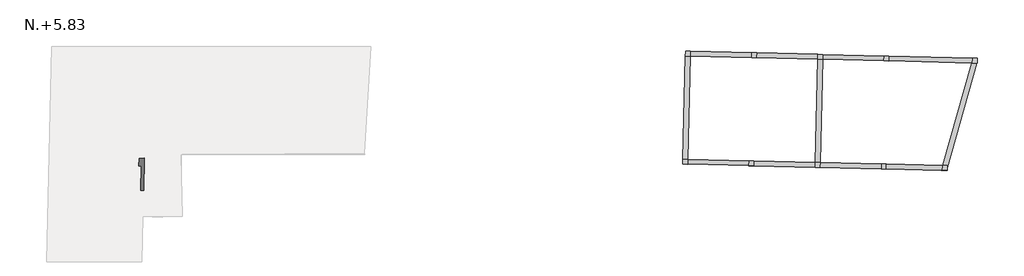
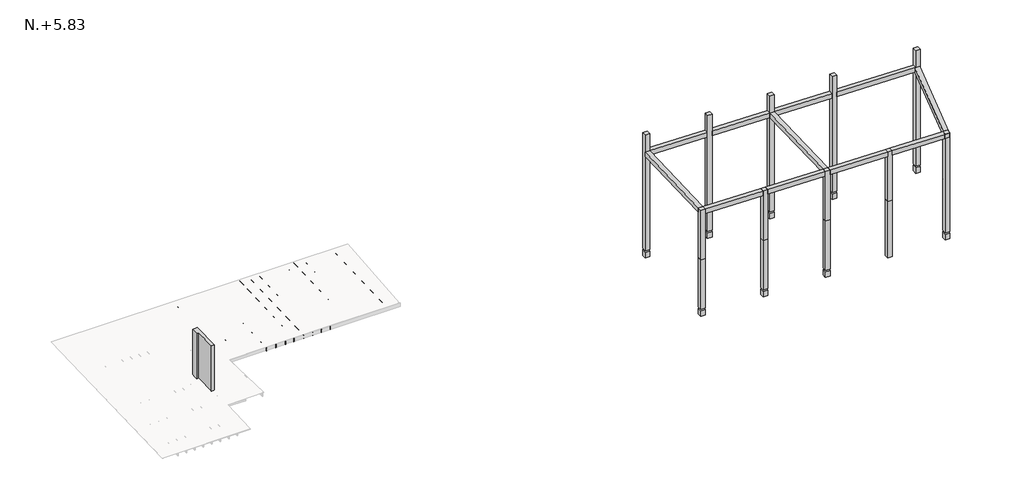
# One storey, part 2 of 2: 25 beams, 10 columns, 1 proxy.
"""IFC4 building model written with IfcOpenShell, lengths in millimetres."""

from ifc_helpers import new_model, si_unit, frame, origin, place, context, project, spatial, polyline, outline, extrude, faceted_brep, element, save

model = new_model("IFC4")

# Units and contexts
model_context = context("Model", 3, world=origin())
ifc_project = project(units=[si_unit("LENGTHUNIT", "METRE", prefix="MILLI")], contexts=[model_context])

# Site, building, storey
site = spatial("IfcSite", under=ifc_project)
building = spatial("IfcBuilding", under=site)
storey = spatial("IfcBuildingStorey", under=building, Name="N.+5.83", Elevation=2820.0)

# Beams
placement = place(None, origin())
element("IfcBeam", 1, ObjectType="Concrete-Rectangular Beam : VGT-202(18X03)(EN MADERA)", at=placement, inside=storey, context=model_context, shape_type="SweptSolid", body=[
    extrude(outline(polyline([(6056.7363488, 11060.2525025), (6086.7189813, 11061.2731633), (6227.297158, 6931.6900432), (6197.3145255, 6930.6693824), (6056.7363488, 11060.2525025)])), frame((0.0, 0.0, 2620.0), z_axis=(0.0, 0.0, 1.0), x_axis=(1.0, 0.0, 0.0)), (0.0, 0.0, 1.0), 180.0),
])
element("IfcBeam", 2, ObjectType="Concrete-Rectangular Beam : VGT-202(18X03)(EN MADERA)", at=placement, inside=storey, context=model_context, shape_type="SweptSolid", body=[
    extrude(outline(polyline([(6516.7272336, 11060.235688), (6546.7099974, 11061.2524858), (6687.3015143, 6915.5686877), (6657.3187506, 6914.5518899), (6516.7272336, 11060.235688)])), frame((0.0, 0.0, 2620.0), z_axis=(0.0, 0.0, 1.0), x_axis=(1.0, 0.0, 0.0)), (0.0, 0.0, 1.0), 180.0),
])
element("IfcBeam", 3, ObjectType="Concrete-Rectangular Beam : VGT-202(18X03)(EN MADERA)", at=placement, inside=storey, context=model_context, shape_type="SweptSolid", body=[
    extrude(outline(polyline([(6986.7272336, 11060.235688), (7016.7099974, 11061.2524858), (7157.8587761, 6899.136466), (7127.8760123, 6898.1196682), (6986.7272336, 11060.235688)])), frame((0.0, 0.0, 2620.0), z_axis=(0.0, 0.0, 1.0), x_axis=(1.0, 0.0, 0.0)), (0.0, 0.0, 1.0), 180.0),
])
element("IfcBeam", 4, ObjectType="Concrete-Rectangular Beam : VGT-202(18X03)(EN MADERA)", at=placement, inside=storey, context=model_context, shape_type="SweptSolid", body=[
    extrude(outline(polyline([(7466.6702631, 11060.1308501), (7496.6538344, 11061.1235494), (7635.012967, 6882.1131326), (7605.0293957, 6881.1204333), (7466.6702631, 11060.1308501)])), frame((0.0, 0.0, 2620.0), z_axis=(0.0, 0.0, 1.0), x_axis=(1.0, 0.0, 0.0)), (0.0, 0.0, 1.0), 180.0),
])
element("IfcBeam", 5, ObjectType="Concrete-Rectangular Beam : VGT-202(18X03)(EN MADERA)", at=placement, inside=storey, context=model_context, shape_type="SweptSolid", body=[
    extrude(outline(polyline([(7966.7272336, 11060.235688), (7996.7099974, 11061.2524858), (8139.020726, 6864.8735358), (8109.0379623, 6863.8567379), (7966.7272336, 11060.235688)])), frame((0.0, 0.0, 2620.0), z_axis=(0.0, 0.0, 1.0), x_axis=(1.0, 0.0, 0.0)), (0.0, 0.0, 1.0), 180.0),
])
element("IfcBeam", 6, ObjectType="Concrete-Rectangular Beam : VGT-203(18X03)(EN MADERA)", at=placement, inside=storey, context=model_context, shape_type="Brep", body=[
    faceted_brep([(9010.5116266, 5558.9011747, 2800.0), (8980.5225158, 5559.7094023, 2800.0), (8980.5225158, 5559.7094023, 2620.0), (9010.5116266, 5558.9011747, 2620.0), (9158.8658295, 11063.5517564, 2800.0), (9158.8658295, 11063.5517564, 2620.0), (9128.8767187, 11064.359984, 2620.0), (9128.8767187, 11064.359984, 2800.0), (9010.7816883, 5568.9217573, 2800.0), (9011.1031287, 5580.8487308, 2800.0), (9011.5902094, 5598.9217573, 2800.0), (8981.5793163, 5598.9217573, 2800.0), (8981.0877496, 5580.6822805, 2800.0), (8980.7707952, 5568.9217573, 2800.0)], [[[0, 1, 2, 3]], [[4, 5, 6, 7]], [[1, 0, 8, 9, 10, 4, 7, 11, 12, 13]], [[2, 1, 13, 12, 11, 7, 6]], [[3, 2, 6, 5]], [[0, 3, 5, 4, 10, 9, 8]]]),
])
element("IfcBeam", 7, ObjectType="Concrete-Rectangular Beam : VGT-203(18X03)(EN MADERA)", at=placement, inside=storey, context=model_context, shape_type="Brep", body=[
    faceted_brep([(9550.5917265, 5561.8912166, 2800.0), (9520.6026158, 5562.6994468, 2800.0), (9520.6026158, 5562.6994468, 2620.0), (9550.5917265, 5561.8912166, 2620.0), (9698.8656888, 11063.5467822, 2800.0), (9698.8656888, 11063.5467822, 2620.0), (9668.8765781, 11064.3550124, 2620.0), (9668.8765781, 11064.3550124, 2800.0), (9550.7812051, 5568.9217573, 2800.0), (9551.1833646, 5583.8437472, 2800.0), (9551.5897288, 5598.9217573, 2800.0), (9521.5788356, 5598.9217573, 2800.0), (9521.1679854, 5583.6772968, 2800.0), (9520.7703119, 5568.9217573, 2800.0)], [[[0, 1, 2, 3]], [[4, 5, 6, 7]], [[1, 0, 8, 9, 10, 4, 7, 11, 12, 13]], [[2, 1, 13, 12, 11, 7, 6]], [[3, 2, 6, 5]], [[0, 3, 5, 4, 10, 9, 8]]]),
])
element("IfcBeam", 8, ObjectType="Concrete-Rectangular Beam : VGT-203(18X03)(EN MADERA)", at=placement, inside=storey, context=model_context, shape_type="Brep", body=[
    faceted_brep([(10080.7490101, 5564.8312929, 2800.0), (10050.759888, 5565.6391011, 2800.0), (10050.759888, 5565.6391011, 2620.0), (10080.7490101, 5564.8312929, 2620.0), (10228.8663712, 11063.5494032, 2800.0), (10228.8663712, 11063.5494032, 2620.0), (10198.8772491, 11064.3572114, 2620.0), (10198.8772491, 11064.3572114, 2800.0), (10080.8591938, 5568.9217573, 2800.0), (10081.3403366, 5586.7837341, 2800.0), (10081.667295, 5598.9217573, 2800.0), (10051.6564132, 5598.9217573, 2800.0), (10051.3249712, 5586.6172838, 2800.0), (10050.8483119, 5568.9217573, 2800.0)], [[[0, 1, 2, 3]], [[4, 5, 6, 7]], [[1, 0, 8, 9, 10, 4, 7, 11, 12, 13]], [[2, 1, 13, 12, 11, 7, 6]], [[3, 2, 6, 5]], [[0, 3, 5, 4, 10, 9, 8]]]),
])
element("IfcBeam", 9, ObjectType="Concrete-Rectangular Beam : VGT-203(18X03)(EN MADERA)", at=placement, inside=storey, context=model_context, shape_type="Brep", body=[
    faceted_brep([(10561.6525406, 5567.4984013, 2800.0), (10531.6632985, 5568.3017434, 2800.0), (10531.6632985, 5568.3017434, 2620.0), (10561.6525406, 5567.4984013, 2620.0), (10708.879697, 11063.576272, 2800.0), (10708.879697, 11063.576272, 2620.0), (10678.8904549, 11064.3796141, 2620.0), (10678.8904549, 11064.3796141, 2800.0), (10561.690669, 5568.9217573, 2800.0), (10562.2405881, 5589.4505677, 2800.0), (10562.4942993, 5598.9217573, 2800.0), (10532.4835375, 5598.9217573, 2800.0), (10532.2253676, 5589.2841182, 2800.0), (10531.6799072, 5568.9217573, 2800.0)], [[[0, 1, 2, 3]], [[4, 5, 6, 7]], [[1, 0, 8, 9, 10, 4, 7, 11, 12, 13]], [[2, 1, 13, 12, 11, 7, 6]], [[3, 2, 6, 5]], [[0, 3, 5, 4, 10, 9, 8]]]),
])
element("IfcBeam", 10, ObjectType="Concrete-Rectangular Beam : VGT-203(18X03)(EN MADERA)", at=placement, inside=storey, context=model_context, shape_type="Brep", body=[
    faceted_brep([(11091.7312844, 5570.4379543, 2800.0), (11061.7420423, 5571.2412965, 2800.0), (11061.7420423, 5571.2412965, 2640.0), (11061.7420423, 5571.2412965, 2620.0), (11091.7312844, 5570.4379543, 2620.0), (11091.7312844, 5570.4379543, 2640.0), (11238.879697, 11063.576272, 2800.0), (11238.879697, 11063.576272, 2620.0), (11208.8904549, 11064.3796141, 2620.0), (11208.8904549, 11064.3796141, 2800.0), (11092.3193319, 5592.3901208, 2800.0), (11092.4942993, 5598.9217573, 2800.0), (11062.4835375, 5598.9217573, 2800.0), (11062.3041114, 5592.2236713, 2800.0)], [[[0, 1, 2, 3, 4, 5]], [[6, 7, 8, 9]], [[1, 0, 10, 11, 6, 9, 12, 13]], [[3, 2, 1, 13, 12, 9, 8]], [[4, 3, 8, 7]], [[0, 5, 4, 7, 6, 11, 10]]]),
])
element("IfcBeam", 11, ObjectType="Concrete-Rectangular Beam : VGT-203(18X03)(EN MADERA)", at=placement, inside=storey, context=model_context, shape_type="Brep", body=[
    faceted_brep([(11591.2180621, 5573.2076239, 2800.0), (11561.2289048, 5574.0141236, 2800.0), (11561.2289048, 5574.0141236, 2640.0), (11561.2289048, 5574.0141236, 2620.0), (11591.2180621, 5573.2076239, 2620.0), (11591.2180621, 5573.2076239, 2640.0), (11738.8702759, 11063.5572622, 2800.0), (11738.8702759, 11063.5572622, 2620.0), (11708.8811185, 11064.3637619, 2620.0), (11708.8811185, 11064.3637619, 2800.0), (11591.8084294, 5595.1600389, 2800.0), (11591.9095935, 5598.9217573, 2800.0), (11561.8987469, 5598.9217573, 2800.0), (11561.7931065, 5594.9935888, 2800.0)], [[[0, 1, 2, 3, 4, 5]], [[6, 7, 8, 9]], [[1, 0, 10, 11, 6, 9, 12, 13]], [[3, 2, 1, 13, 12, 9, 8]], [[4, 3, 8, 7]], [[0, 5, 4, 7, 6, 11, 10]]]),
])
element("IfcBeam", 12, ObjectType="Concrete-Rectangular Beam : VGT-203(18X03)(EN MADERA)", at=placement, inside=storey, context=model_context, shape_type="Brep", body=[
    faceted_brep([(12081.8783718, 5575.9288176, 2800.0), (12051.8891298, 5576.7321597, 2800.0), (12051.8891298, 5576.7321597, 2640.0), (12051.8891298, 5576.7321597, 2620.0), (12081.8783718, 5575.9288176, 2620.0), (12081.8783718, 5575.9288176, 2640.0), (12228.879697, 11063.576272, 2800.0), (12228.879697, 11063.576272, 2620.0), (12198.8904549, 11064.3796141, 2620.0), (12198.8904549, 11064.3796141, 2800.0), (12082.4664194, 5597.8809841, 2800.0), (12082.4942993, 5598.9217573, 2800.0), (12052.4835375, 5598.9217573, 2800.0), (12052.4511988, 5597.7145346, 2800.0)], [[[0, 1, 2, 3, 4, 5]], [[6, 7, 8, 9]], [[1, 0, 10, 11, 6, 9, 12, 13]], [[3, 2, 1, 13, 12, 9, 8]], [[4, 3, 8, 7]], [[0, 5, 4, 7, 6, 11, 10]]]),
])
element("IfcBeam", 13, ObjectType="Concrete-Rectangular Beam : VGT-203(18X03)(EN MADERA)", at=placement, inside=storey, context=model_context, shape_type="Brep", body=[
    faceted_brep([(12581.9526585, 5578.7019809, 2800.0), (12551.9634164, 5579.505323, 2800.0), (12551.9634164, 5579.505323, 2640.0), (12551.9634164, 5579.505323, 2620.0), (12581.9526585, 5578.7019809, 2620.0), (12581.9526585, 5578.7019809, 2640.0), (12728.879697, 11063.576272, 2800.0), (12728.879697, 11063.576272, 2620.0), (12698.8904549, 11064.3796141, 2620.0), (12698.8904549, 11064.3796141, 2800.0), (12582.4942993, 5598.9217573, 2800.0), (12552.4835375, 5598.9217573, 2800.0)], [[[0, 1, 2, 3, 4, 5]], [[6, 7, 8, 9]], [[1, 0, 10, 6, 9, 11]], [[3, 2, 1, 11, 9, 8]], [[4, 3, 8, 7]], [[0, 5, 4, 7, 6, 10]]]),
])
element("IfcBeam", 14, ObjectType="Concrete-Rectangular Beam : VGT-203(18X03)(EN MADERA)", at=placement, inside=storey, context=model_context, shape_type="Brep", body=[
    faceted_brep([(13101.6436768, 5581.5837409, 2800.0), (13071.6544905, 5582.389162, 2800.0), (13071.6544905, 5582.389162, 2640.0), (13071.6544905, 5582.389162, 2620.0), (13101.6436768, 5581.5837409, 2620.0), (13101.6436768, 5581.5837409, 2640.0), (13248.8734943, 11063.5637487, 2800.0), (13248.8734943, 11063.5637487, 2620.0), (13218.884308, 11064.3691698, 2620.0), (13218.884308, 11064.3691698, 2800.0), (13102.1093248, 5598.9217573, 2800.0), (13072.0985072, 5598.9217573, 2800.0)], [[[0, 1, 2, 3, 4, 5]], [[6, 7, 8, 9]], [[1, 0, 10, 6, 9, 11]], [[3, 2, 1, 11, 9, 8]], [[4, 3, 8, 7]], [[0, 5, 4, 7, 6, 10]]]),
])
element("IfcBeam", 15, ObjectType="Concrete-Rectangular Beam : VGT-203(18X03)(EN MADERA)", at=placement, inside=storey, context=model_context, shape_type="Brep", body=[
    faceted_brep([(13572.0997459, 5584.1928442, 2800.0), (13542.1105038, 5584.9961863, 2800.0), (13542.1105038, 5584.9961863, 2640.0), (13542.1105038, 5584.9961863, 2620.0), (13572.0997459, 5584.1928442, 2620.0), (13572.0997459, 5584.1928442, 2640.0), (13718.879697, 11063.576272, 2800.0), (13718.879697, 11063.576272, 2620.0), (13688.8904549, 11064.3796141, 2620.0), (13688.8904549, 11064.3796141, 2800.0), (13572.4942993, 5598.9217573, 2800.0), (13542.4835375, 5598.9217573, 2800.0)], [[[0, 1, 2, 3, 4, 5]], [[6, 7, 8, 9]], [[1, 0, 10, 6, 9, 11]], [[3, 2, 1, 11, 9, 8]], [[4, 3, 8, 7]], [[0, 5, 4, 7, 6, 10]]]),
])
element("IfcBeam", 16, ObjectType="Concrete-Rectangular Beam : VGT-203(18X03)(EN MADERA)", at=placement, inside=storey, context=model_context, shape_type="Brep", body=[
    faceted_brep([(14102.3686425, 5587.1334518, 2800.0), (14072.3794004, 5587.9367939, 2800.0), (14072.3794004, 5587.9367939, 2640.0), (14072.3794004, 5587.9367939, 2620.0), (14102.3686425, 5587.1334518, 2620.0), (14102.3686425, 5587.1334518, 2640.0), (14248.6896407, 11049.3838945, 2800.0), (14248.6896407, 11049.3838945, 2620.0), (14218.7003986, 11050.1872367, 2620.0), (14218.7003986, 11050.1872367, 2800.0), (14102.6844238, 5598.9217573, 2800.0), (14072.673662, 5598.9217573, 2800.0)], [[[0, 1, 2, 3, 4, 5]], [[6, 7, 8, 9]], [[1, 0, 10, 6, 9, 11]], [[3, 2, 1, 11, 9, 8]], [[4, 3, 8, 7]], [[0, 5, 4, 7, 6, 10]]]),
])
element("IfcBeam", 17, ObjectType="Concrete-Rectangular Beam : VGT-203(18X03)(EN MADERA)", at=placement, inside=storey, context=model_context, shape_type="Brep", body=[
    faceted_brep([(14602.4429291, 5589.906615, 2800.0), (14572.453687, 5590.7099572, 2800.0), (14572.453687, 5590.7099572, 2640.0), (14572.453687, 5590.7099572, 2620.0), (14602.4429291, 5589.906615, 2620.0), (14602.4429291, 5589.906615, 2640.0), (14748.6896407, 11049.3838945, 2800.0), (14748.6896407, 11049.3838945, 2620.0), (14718.7003986, 11050.1872367, 2620.0), (14718.7003986, 11050.1872367, 2800.0), (14602.6844238, 5598.9217573, 2800.0), (14572.673662, 5598.9217573, 2800.0)], [[[0, 1, 2, 3, 4, 5]], [[6, 7, 8, 9]], [[1, 0, 10, 6, 9, 11]], [[3, 2, 1, 11, 9, 8]], [[4, 3, 8, 7]], [[0, 5, 4, 7, 6, 10]]]),
])
element("IfcBeam", 18, ObjectType="Concrete-Rectangular Beam : VGT-203(18X03)(EN MADERA)", at=placement, inside=storey, context=model_context, shape_type="Brep", body=[
    faceted_brep([(15102.4248882, 5592.6792027, 2800.0), (15072.4356595, 5593.483044, 2800.0), (15072.4356595, 5593.483044, 2640.0), (15072.4356595, 5593.483044, 2620.0), (15102.4248882, 5592.6792027, 2620.0), (15102.4248882, 5592.6792027, 2640.0), (15248.6881513, 11049.3808848, 2800.0), (15248.6881513, 11049.3808848, 2620.0), (15218.6989226, 11050.1847262, 2620.0), (15218.6989226, 11050.1847262, 2800.0), (15102.5922157, 5598.9217573, 2800.0), (15072.5814406, 5598.9217573, 2800.0)], [[[0, 1, 2, 3, 4, 5]], [[6, 7, 8, 9]], [[1, 0, 10, 6, 9, 11]], [[3, 2, 1, 11, 9, 8]], [[4, 3, 8, 7]], [[0, 5, 4, 7, 6, 10]]]),
])
element("IfcBeam", 19, ObjectType="Concrete-Rectangular Beam : VGT-203(18X03)(EN MADERA)", at=placement, inside=storey, context=model_context, shape_type="Brep", body=[
    faceted_brep([(15732.6108168, 5596.173964, 2800.0), (15702.6215747, 5596.9773062, 2800.0), (15702.6215747, 5596.9773062, 2640.0), (15702.6215747, 5596.9773062, 2620.0), (15732.6108168, 5596.173964, 2620.0), (15732.6108168, 5596.173964, 2640.0), (15878.6896407, 11049.3838945, 2800.0), (15878.6896407, 11049.3838945, 2620.0), (15848.7003986, 11050.1872367, 2620.0), (15848.7003986, 11050.1872367, 2800.0), (15732.6844238, 5598.9217573, 2800.0), (15702.673662, 5598.9217573, 2800.0)], [[[0, 1, 2, 3, 4, 5]], [[6, 7, 8, 9]], [[1, 0, 10, 6, 9, 11]], [[3, 2, 1, 11, 9, 8]], [[4, 3, 8, 7]], [[0, 5, 4, 7, 6, 10]]]),
])
element("IfcBeam", 20, ObjectType="Concrete-Rectangular Beam : VGT-203(18X03)(EN MADERA)", at=placement, inside=storey, context=model_context, shape_type="SweptSolid", body=[
    extrude(outline(polyline([(16392.7088751, 5599.8345396), (16362.719633, 5600.6378817), (16508.7003986, 11050.1872367), (16538.6896407, 11049.3838945), (16392.7088751, 5599.8345396)])), frame((0.0, 0.0, 2620.0), z_axis=(0.0, 0.0, 1.0), x_axis=(1.0, 0.0, 0.0)), (0.0, 0.0, 1.0), 180.0),
])
element("IfcBeam", 21, ObjectType="M_Hormigón-Viga rectangular : VG-201(25X25)", at=placement, inside=storey, context=model_context, shape_type="Brep", body=[
    faceted_brep([(47843.6755126, 10301.0975039, 2820.0), (47849.7741886, 10551.0231052, 2820.0), (43521.0627753, 10656.6521736, 2820.0), (43514.9640993, 10406.7265724, 2820.0), (47807.743374, 10301.9743187, 2820.0), (47843.6755126, 10301.0975039, 2570.0), (43514.9640993, 10406.7265724, 2570.0), (47807.743374, 10301.9743187, 2570.0), (47849.7741886, 10551.0231052, 2570.0), (43521.0627753, 10656.6521736, 2570.0)], [[[0, 1, 2, 3, 4]], [[5, 0, 4, 3, 6, 7]], [[8, 5, 7, 6, 9]], [[1, 8, 9, 2]], [[1, 0, 5, 8]], [[3, 2, 9, 6]]]),
    faceted_brep([(33258.0174247, 10657.0162357, 2820.0), (33264.1161008, 10906.9418369, 2820.0), (33264.1161008, 10906.9418369, 2570.0), (33258.0174247, 10657.0162357, 2570.0), (36433.1727244, 10829.6106252, 2820.0), (36427.0740484, 10579.6850239, 2820.0), (36427.0740484, 10579.6850239, 2570.0), (36433.1727244, 10829.6106252, 2570.0)], [[[0, 1, 2, 3]], [[4, 5, 6, 7]], [[1, 0, 5, 4]], [[0, 3, 6, 5]], [[3, 2, 7, 6]], [[2, 1, 4, 7]]]),
    faceted_brep([(36676.9996496, 10573.5863479, 2820.0), (36683.0983256, 10823.5119492, 2820.0), (36683.0983256, 10823.5119492, 2570.0), (36676.9996496, 10573.5863479, 2570.0), (39852.1549492, 10746.1807374, 2820.0), (39846.0562732, 10496.2551362, 2820.0), (39846.0562732, 10496.2551362, 2570.0), (39852.1549492, 10746.1807374, 2570.0)], [[[0, 1, 2, 3]], [[4, 5, 6, 7]], [[1, 0, 5, 4]], [[0, 3, 6, 5]], [[3, 2, 7, 6]], [[2, 1, 4, 7]]]),
    faceted_brep([(40095.9818744, 10490.1564601, 2820.0), (40102.0805504, 10740.0820614, 2820.0), (40102.0805504, 10740.0820614, 2570.0), (40095.9818744, 10490.1564601, 2570.0), (43271.1371741, 10662.7508496, 2820.0), (43265.0384981, 10412.8252484, 2820.0), (43265.0384981, 10412.8252484, 2570.0), (43271.1371741, 10662.7508496, 2570.0)], [[[0, 1, 2, 3]], [[4, 5, 6, 7]], [[1, 0, 5, 4]], [[0, 3, 6, 5]], [[3, 2, 7, 6]], [[2, 1, 4, 7]]]),
])
element("IfcBeam", 22, ObjectType="M_Hormigón-Viga rectangular : VG-202(25X25)", at=placement, inside=storey, context=model_context, shape_type="SweptSolid", body=[
    extrude(outline(polyline([(33121.4070827, 5058.6827704), (33127.5057587, 5308.6083716), (36296.562383, 5231.2771598), (36290.463707, 4981.3515586), (33121.4070827, 5058.6827704)])), frame((0.0, 0.0, 2570.0), z_axis=(0.0, 0.0, 1.0), x_axis=(1.0, 0.0, 0.0)), (0.0, 0.0, 1.0), 250.0),
    extrude(outline(polyline([(46286.5557776, 4987.5016813), (46284.2145968, 4891.5593805), (46241.124424, 4738.5358747), (43378.3537578, 4808.393107), (43384.4524338, 5058.3187082), (46286.5557776, 4987.5016813)])), frame((0.0, 0.0, 2570.0), z_axis=(0.0, 0.0, 1.0), x_axis=(1.0, 0.0, 0.0)), (0.0, 0.0, 1.0), 250.0),
    extrude(outline(polyline([(36540.3893082, 4975.2528826), (36546.4879842, 5225.1784838), (39715.5446078, 5147.847272), (39709.4459318, 4897.9216708), (36540.3893082, 4975.2528826)])), frame((0.0, 0.0, 2570.0), z_axis=(0.0, 0.0, 1.0), x_axis=(1.0, 0.0, 0.0)), (0.0, 0.0, 1.0), 250.0),
    extrude(outline(polyline([(39959.3715331, 4891.8229948), (39965.4702091, 5141.748596), (43134.5268326, 5064.4173842), (43128.4281566, 4814.491783), (39959.3715331, 4891.8229948)])), frame((0.0, 0.0, 2570.0), z_axis=(0.0, 0.0, 1.0), x_axis=(1.0, 0.0, 0.0)), (0.0, 0.0, 1.0), 250.0),
])
element("IfcBeam", 23, ObjectType="M_Hormigón-Viga rectangular : VG-203(25X25)", at=placement, inside=storey, context=model_context, shape_type="Brep", body=[
    faceted_brep([(32877.5797825, 5314.6916984, 2820.0), (33127.5057583, 5308.6083716, 2820.0), (33258.0174247, 10657.0162357, 2820.0), (33008.0918235, 10663.1149117, 2820.0), (32877.5797825, 5314.6916984, 2570.0), (33008.0918235, 10663.1149117, 2570.0), (33127.5057583, 5308.6083716, 2570.0), (33258.0174247, 10657.0162357, 2570.0)], [[[0, 1, 2, 3]], [[4, 0, 3, 5]], [[6, 4, 5, 7]], [[1, 6, 7, 2]], [[6, 1, 0, 4]], [[2, 7, 5, 3]]]),
])
element("IfcBeam", 24, ObjectType="M_Hormigón-Viga rectangular : VG-203(25X25)", at=placement, inside=storey, context=model_context, shape_type="SweptSolid", body=[
    extrude(outline(polyline([(39846.0562743, 10496.2551368), (40095.9818756, 10490.1564608), (39965.470209, 5141.7485949), (39715.5446078, 5147.8472709), (39846.0562743, 10496.2551368)])), frame((0.0, 0.0, 2570.0), z_axis=(0.0, 0.0, 1.0), x_axis=(1.0, 0.0, 0.0)), (0.0, 0.0, 1.0), 250.0),
])
element("IfcBeam", 25, ObjectType="M_Hormigón-Viga rectangular : VG-204(25X25)", at=placement, inside=storey, context=model_context, shape_type="Brep", body=[
    faceted_brep([(46241.124424, 4738.5358747, 2820.0), (46499.0746316, 4732.2413826, 2820.0), (46502.8000284, 4745.471157, 2820.0), (46280.7819589, 4750.8888344, 2820.0), (46284.2145968, 4891.5593805, 2820.0), (46241.124424, 4738.5358747, 2570.0), (46284.2145968, 4891.5593805, 2570.0), (46499.0746316, 4732.2413826, 2570.0), (46280.7819589, 4750.8888344, 2570.0), (46502.8000284, 4745.471157, 2570.0)], [[[0, 1, 2, 3, 4]], [[5, 0, 4, 6]], [[7, 5, 6, 8, 9]], [[1, 7, 9, 2]], [[1, 0, 5, 7]], [[8, 3, 2, 9]], [[3, 8, 6, 4]]]),
    faceted_brep([(47807.743374, 10301.9743187, 2570.0), (47807.743374, 10301.9743187, 2820.0), (47843.6755126, 10301.0975039, 2820.0), (48065.6935821, 10295.6798266, 2820.0), (48065.6935821, 10295.6798266, 2570.0), (47843.6755126, 10301.0975039, 2570.0), (46536.8062362, 4994.7157596, 2820.0), (46536.8062362, 4994.7157596, 2570.0), (46533.3735983, 4854.0452135, 2570.0), (46533.3735983, 4854.0452135, 2820.0), (46314.7881667, 5000.1334369, 2820.0), (46314.7881667, 5000.1334369, 2570.0)], [[[0, 1, 2, 3, 4, 5]], [[6, 7, 8, 9]], [[7, 6, 10, 11]], [[3, 2, 1, 10, 6, 9]], [[1, 0, 11, 10]], [[0, 5, 4, 8, 7, 11]], [[4, 3, 9, 8]]]),
])

# Proxy
element("IfcBuildingElementProxy", 26, Name="Masa 13 : Masa 13", ObjectType="Masa 13 : Masa 13", at=placement, inside=storey, context=model_context, shape_type="SweptSolid", body=[
    extrude(outline(polyline([(5050.5993789, 5368.8383535), (5010.6024749, 3697.6756831), (4864.7930947, 3694.2264768), (4888.2705146, 4964.0094547), (4768.1974879, 4961.1690571), (4775.614746, 5362.3335836), (5050.5993789, 5368.8383535)])), frame((0.0, 0.0, 2820.0), z_axis=(0.0, 0.0, 1.0), x_axis=(1.0, 0.0, 0.0)), (0.0, 0.0, 1.0), 2670.0),
])

# Columns
element("IfcColumn", 27, ObjectType="M_Hormigón-Rectangular-Pilar : .25 x .25 01", at=placement, inside=storey, context=model_context, shape_type="SweptSolid", body=[
    extrude(outline(polyline([(36546.4879842, 5225.1784821), (36540.3893082, 4975.2528808), (36290.4637069, 4981.3515568), (36296.5623829, 5231.2771581), (36546.4879842, 5225.1784821)])), frame((0.0, 0.0, -80.0), z_axis=(0.0, 0.0, 1.0), x_axis=(1.0, 0.0, 0.0)), (0.0, 0.0, 1.0), 2900.0),
    extrude(outline(polyline([(36546.4879842, 5225.1784821), (36540.3893082, 4975.2528808), (36290.4637069, 4981.3515568), (36296.5623829, 5231.2771581), (36546.4879842, 5225.1784821)])), frame((0.0, 0.0, -3410.0), z_axis=(0.0, 0.0, 1.0), x_axis=(1.0, 0.0, 0.0)), (0.0, 0.0, 1.0), 330.0),
    extrude(outline(polyline([(36546.4879842, 5225.1784821), (36540.3893082, 4975.2528808), (36290.4637069, 4981.3515568), (36296.5623829, 5231.2771581), (36546.4879842, 5225.1784821)])), frame((0.0, 0.0, -2990.0), z_axis=(0.0, 0.0, 1.0), x_axis=(1.0, 0.0, 0.0)), (0.0, 0.0, 1.0), 2900.0),
])
element("IfcColumn", 28, ObjectType="M_Hormigón-Rectangular-Pilar : .25 x .25 01", at=placement, inside=storey, context=model_context, shape_type="SweptSolid", body=[
    extrude(outline(polyline([(33127.5053842, 5308.5930224), (33121.4067082, 5058.6674212), (32871.481107, 5064.7660972), (32877.579783, 5314.6916984), (33127.5053842, 5308.5930224)])), frame((0.0, 0.0, -80.0), z_axis=(0.0, 0.0, 1.0), x_axis=(1.0, 0.0, 0.0)), (0.0, 0.0, 1.0), 2900.0),
    extrude(outline(polyline([(33127.5053842, 5308.5930224), (33121.4067082, 5058.6674212), (32871.481107, 5064.7660972), (32877.579783, 5314.6916984), (33127.5053842, 5308.5930224)])), frame((0.0, 0.0, -3410.0), z_axis=(0.0, 0.0, 1.0), x_axis=(1.0, 0.0, 0.0)), (0.0, 0.0, 1.0), 330.0),
    extrude(outline(polyline([(33127.5053842, 5308.5930224), (33121.4067082, 5058.6674212), (32871.481107, 5064.7660972), (32877.579783, 5314.6916984), (33127.5053842, 5308.5930224)])), frame((0.0, 0.0, -2990.0), z_axis=(0.0, 0.0, 1.0), x_axis=(1.0, 0.0, 0.0)), (0.0, 0.0, 1.0), 2900.0),
])
element("IfcColumn", 29, ObjectType="M_Hormigón-Rectangular-Pilar : .25 x .25 01", at=placement, inside=storey, context=model_context, shape_type="SweptSolid", body=[
    extrude(outline(polyline([(33264.1161008, 10906.9418369), (33258.0174247, 10657.0162357), (33008.0918235, 10663.1149117), (33014.1904995, 10913.0405129), (33264.1161008, 10906.9418369)])), frame((0.0, 0.0, -2990.0), z_axis=(0.0, 0.0, 1.0), x_axis=(1.0, 0.0, 0.0)), (0.0, 0.0, 1.0), 6810.0),
    extrude(outline(polyline([(33264.1161008, 10906.9418369), (33258.0174247, 10657.0162357), (33008.0918235, 10663.1149117), (33014.1904995, 10913.0405129), (33264.1161008, 10906.9418369)])), frame((0.0, 0.0, -3410.0), z_axis=(0.0, 0.0, 1.0), x_axis=(1.0, 0.0, 0.0)), (0.0, 0.0, 1.0), 330.0),
])
element("IfcColumn", 30, ObjectType="M_Hormigón-Rectangular-Pilar : .25 x .25 01", at=placement, inside=storey, context=model_context, shape_type="SweptSolid", body=[
    extrude(outline(polyline([(36683.0983256, 10823.5119497), (36676.9996496, 10573.5863485), (36427.0740484, 10579.6850245), (36433.1727244, 10829.6106257), (36683.0983256, 10823.5119497)])), frame((0.0, 0.0, -2990.0), z_axis=(0.0, 0.0, 1.0), x_axis=(1.0, 0.0, 0.0)), (0.0, 0.0, 1.0), 6810.0),
    extrude(outline(polyline([(36683.0983256, 10823.5119497), (36676.9996496, 10573.5863485), (36427.0740484, 10579.6850245), (36433.1727244, 10829.6106257), (36683.0983256, 10823.5119497)])), frame((0.0, 0.0, -3410.0), z_axis=(0.0, 0.0, 1.0), x_axis=(1.0, 0.0, 0.0)), (0.0, 0.0, 1.0), 330.0),
])
element("IfcColumn", 31, ObjectType="M_Hormigón-Rectangular-Pilar : .25 x .25 01", at=placement, inside=storey, context=model_context, shape_type="SweptSolid", body=[
    extrude(outline(polyline([(40102.0805504, 10740.0820621), (40095.9818744, 10490.1564609), (39846.0562732, 10496.2551369), (39852.1549492, 10746.1807381), (40102.0805504, 10740.0820621)])), frame((0.0, 0.0, -2990.0), z_axis=(0.0, 0.0, 1.0), x_axis=(1.0, 0.0, 0.0)), (0.0, 0.0, 1.0), 6810.0),
    extrude(outline(polyline([(40102.0805504, 10740.0820621), (40095.9818744, 10490.1564609), (39846.0562732, 10496.2551369), (39852.1549492, 10746.1807381), (40102.0805504, 10740.0820621)])), frame((0.0, 0.0, -3410.0), z_axis=(0.0, 0.0, 1.0), x_axis=(1.0, 0.0, 0.0)), (0.0, 0.0, 1.0), 330.0),
])
element("IfcColumn", 32, ObjectType="M_Hormigón-Rectangular-Pilar : .25 x .25 01", at=placement, inside=storey, context=model_context, shape_type="SweptSolid", body=[
    extrude(outline(polyline([(43521.0627754, 10656.6521751), (43514.9640994, 10406.7265739), (43265.0384981, 10412.8252499), (43271.1371741, 10662.7508511), (43521.0627754, 10656.6521751)])), frame((0.0, 0.0, -2990.0), z_axis=(0.0, 0.0, 1.0), x_axis=(1.0, 0.0, 0.0)), (0.0, 0.0, 1.0), 6810.0),
    extrude(outline(polyline([(43521.0627754, 10656.6521751), (43514.9640994, 10406.7265739), (43265.0384981, 10412.8252499), (43271.1371741, 10662.7508511), (43521.0627754, 10656.6521751)])), frame((0.0, 0.0, -3410.0), z_axis=(0.0, 0.0, 1.0), x_axis=(1.0, 0.0, 0.0)), (0.0, 0.0, 1.0), 330.0),
])
element("IfcColumn", 33, ObjectType="M_Hormigón-Rectangular-Pilar : .25 x .25 01", at=placement, inside=storey, context=model_context, shape_type="Brep", body=[
    faceted_brep([(48099.6997899, 10544.9244307, 3820.0), (47849.7741887, 10551.0231067, 3820.0), (47843.6755127, 10301.0975054, 3820.0), (48093.6011139, 10294.9988294, 3820.0), (48093.6011139, 10294.9988294, -2990.0), (48099.6997899, 10544.9244307, -2990.0), (47843.6755127, 10301.0975054, -2990.0), (48065.6935821, 10295.6798281, -2990.0), (47849.7741887, 10551.0231067, -2990.0)], [[[0, 1, 2, 3]], [[0, 3, 4, 5]], [[3, 2, 6, 7, 4]], [[2, 1, 8, 6]], [[1, 0, 5, 8]], [[5, 4, 7, 6, 8]]]),
    faceted_brep([(48099.6997899, 10544.9244307, -3410.0), (48093.6011139, 10294.9988294, -3410.0), (47843.6755127, 10301.0975054, -3410.0), (47849.7741887, 10551.0231067, -3410.0), (48093.6011139, 10294.9988294, -3080.0), (48099.6997899, 10544.9244307, -3080.0), (47849.7741887, 10551.0231067, -3080.0), (47843.6755127, 10301.0975054, -3080.0), (48065.6935821, 10295.6798281, -3080.0)], [[[0, 1, 2, 3]], [[4, 5, 6, 7, 8]], [[1, 0, 5, 4]], [[2, 1, 4, 8, 7]], [[3, 2, 7, 6]], [[0, 3, 6, 5]]]),
])
element("IfcColumn", 34, ObjectType="M_Hormigón-Rectangular-Pilar : .25 x .25 01", at=placement, inside=storey, context=model_context, shape_type="SweptSolid", body=[
    extrude(outline(polyline([(39965.470209, 5141.7485949), (39959.371533, 4891.8229936), (39709.4459318, 4897.9216696), (39715.5446078, 5147.8472709), (39965.470209, 5141.7485949)])), frame((0.0, 0.0, -80.0), z_axis=(0.0, 0.0, 1.0), x_axis=(1.0, 0.0, 0.0)), (0.0, 0.0, 1.0), 2900.0),
    extrude(outline(polyline([(39965.470209, 5141.7485949), (39959.371533, 4891.8229936), (39709.4459318, 4897.9216696), (39715.5446078, 5147.8472709), (39965.470209, 5141.7485949)])), frame((0.0, 0.0, -3410.0), z_axis=(0.0, 0.0, 1.0), x_axis=(1.0, 0.0, 0.0)), (0.0, 0.0, 1.0), 330.0),
    extrude(outline(polyline([(39965.470209, 5141.7485949), (39959.371533, 4891.8229936), (39709.4459318, 4897.9216696), (39715.5446078, 5147.8472709), (39965.470209, 5141.7485949)])), frame((0.0, 0.0, -2990.0), z_axis=(0.0, 0.0, 1.0), x_axis=(1.0, 0.0, 0.0)), (0.0, 0.0, 1.0), 2900.0),
])
element("IfcColumn", 35, ObjectType="M_Hormigón-Rectangular-Pilar : .25 x .25 01", at=placement, inside=storey, context=model_context, shape_type="SweptSolid", body=[
    extrude(outline(polyline([(43384.4524338, 5058.3187072), (43378.3537578, 4808.3931059), (43128.4281566, 4814.4917819), (43134.5268326, 5064.4173832), (43384.4524338, 5058.3187072)])), frame((0.0, 0.0, -80.0), z_axis=(0.0, 0.0, 1.0), x_axis=(1.0, 0.0, 0.0)), (0.0, 0.0, 1.0), 2900.0),
    extrude(outline(polyline([(43384.4524338, 5058.3187072), (43378.3537578, 4808.3931059), (43128.4281566, 4814.4917819), (43134.5268326, 5064.4173832), (43384.4524338, 5058.3187072)])), frame((0.0, 0.0, -3410.0), z_axis=(0.0, 0.0, 1.0), x_axis=(1.0, 0.0, 0.0)), (0.0, 0.0, 1.0), 3320.0),
])
element("IfcColumn", 36, ObjectType="M_Hormigón-Rectangular-Pilar : .25 x .25 01", at=placement, inside=storey, context=model_context, shape_type="Brep", body=[
    faceted_brep([(46536.8062362, 4994.7157596, 2820.0), (46286.8806349, 5000.8144356, 2820.0), (46280.7819589, 4750.8888344, 2820.0), (46530.7075602, 4744.7901584, 2820.0), (46530.7075602, 4744.7901584, -2990.0), (46533.3735983, 4854.0452135, -2990.0), (46536.8062362, 4994.7157596, -2990.0), (46280.7819589, 4750.8888344, -2990.0), (46286.8806349, 5000.8144356, 45.0), (46286.5557776, 4987.5016813, 45.0), (46286.5557776, 4987.5016813, 25.0), (46286.8806349, 5000.8144356, 25.0), (46286.8806349, 5000.8144356, -2990.0), (46314.7881667, 5000.1334369, 25.0), (46314.7881667, 5000.1334369, 45.0), (46311.06277, 4986.9036625, 25.0), (46311.06277, 4986.9036625, 45.0)], [[[0, 1, 2, 3]], [[0, 3, 4, 5, 6]], [[3, 2, 7, 4]], [[2, 1, 8, 9, 10, 11, 12, 7]], [[1, 0, 6, 12, 11, 13, 14, 8]], [[7, 12, 6, 5, 4]], [[10, 15, 13, 11]], [[14, 16, 9, 8]], [[15, 16, 14, 13]], [[16, 15, 10, 9]]]),
    faceted_brep([(46536.8062362, 4994.7157596, -3410.0), (46530.7075602, 4744.7901584, -3410.0), (46280.7819589, 4750.8888344, -3410.0), (46286.8806349, 5000.8144356, -3410.0), (46286.8806349, 5000.8144356, -3080.0), (46280.7819589, 4750.8888344, -3080.0), (46530.7075602, 4744.7901584, -3080.0), (46533.3735983, 4854.0452135, -3080.0), (46536.8062362, 4994.7157596, -3080.0)], [[[0, 1, 2, 3]], [[4, 5, 6, 7, 8]], [[3, 2, 5, 4]], [[0, 3, 4, 8]], [[1, 0, 8, 7, 6]], [[2, 1, 6, 5]]]),
])

save(model, "model.ifc")
